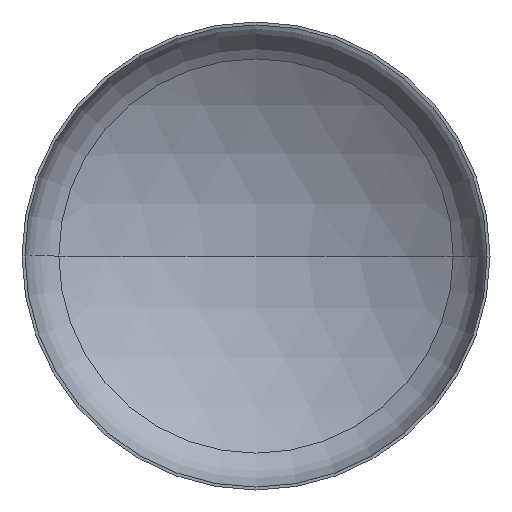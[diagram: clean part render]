
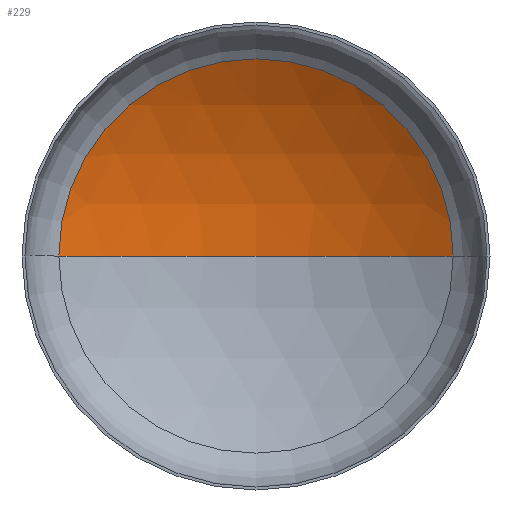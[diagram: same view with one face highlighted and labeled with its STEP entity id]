
A CAD part, front view. The second image highlights one B-rep face of the part: STEP entity #229.
In plain terms, the highlighted spherical face has radius 1280 mm.
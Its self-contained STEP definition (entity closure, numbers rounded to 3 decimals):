
#1 = ORIENTED_EDGE ( 'NONE', *, *, #324, .F. ) ;
#7 = AXIS2_PLACEMENT_3D ( 'NONE', #384, #245, #254 ) ;
#15 = CARTESIAN_POINT ( 'NONE',  ( 0., 430.114, 0. ) ) ;
#18 = VERTEX_POINT ( 'NONE', #276 ) ;
#30 = AXIS2_PLACEMENT_3D ( 'NONE', #333, #291, #137 ) ;
#33 = EDGE_LOOP ( 'NONE', ( #1, #88, #109 ) ) ;
#53 = VERTEX_POINT ( 'NONE', #15 ) ;
#65 = AXIS2_PLACEMENT_3D ( 'NONE', #146, #82, #120 ) ;
#82 = DIRECTION ( 'NONE',  ( 0., 0., -1. ) ) ;
#88 = ORIENTED_EDGE ( 'NONE', *, *, #339, .T. ) ;
#105 = VERTEX_POINT ( 'NONE', #330 ) ;
#109 = ORIENTED_EDGE ( 'NONE', *, *, #335, .T. ) ;
#120 = DIRECTION ( 'NONE',  ( -1., 0., 0. ) ) ;
#137 = DIRECTION ( 'NONE',  ( 1., 0., 0. ) ) ;
#146 = CARTESIAN_POINT ( 'NONE',  ( 0., -849.886, 0. ) ) ;
#229 = ADVANCED_FACE ( 'NONE', ( #392 ), #273, .F. ) ;
#242 = DIRECTION ( 'NONE',  ( 0., 0., -1. ) ) ;
#245 = DIRECTION ( 'NONE',  ( 0., -1., 0. ) ) ;
#254 = DIRECTION ( 'NONE',  ( 1., 0., 0. ) ) ;
#259 = CIRCLE ( 'NONE', #30, 1280. ) ;
#273 = SPHERICAL_SURFACE ( 'NONE', #65, 1280. ) ;
#276 = CARTESIAN_POINT ( 'NONE',  ( -674.01, 238.282, 0. ) ) ;
#291 = DIRECTION ( 'NONE',  ( 0., 0., 1. ) ) ;
#312 = DIRECTION ( 'NONE',  ( -1., 0., 0. ) ) ;
#315 = CIRCLE ( 'NONE', #7, 674.01 ) ;
#324 = EDGE_CURVE ( 'NONE', #53, #18, #259, .T. ) ;
#330 = CARTESIAN_POINT ( 'NONE',  ( 674.01, 238.282, 0. ) ) ;
#333 = CARTESIAN_POINT ( 'NONE',  ( 0., -849.886, 0. ) ) ;
#335 = EDGE_CURVE ( 'NONE', #105, #18, #315, .T. ) ;
#339 = EDGE_CURVE ( 'NONE', #53, #105, #375, .T. ) ;
#350 = AXIS2_PLACEMENT_3D ( 'NONE', #364, #242, #312 ) ;
#364 = CARTESIAN_POINT ( 'NONE',  ( 0., -849.886, 0. ) ) ;
#375 = CIRCLE ( 'NONE', #350, 1280. ) ;
#384 = CARTESIAN_POINT ( 'NONE',  ( 0., 238.282, 0. ) ) ;
#392 = FACE_OUTER_BOUND ( 'NONE', #33, .T. ) ;
